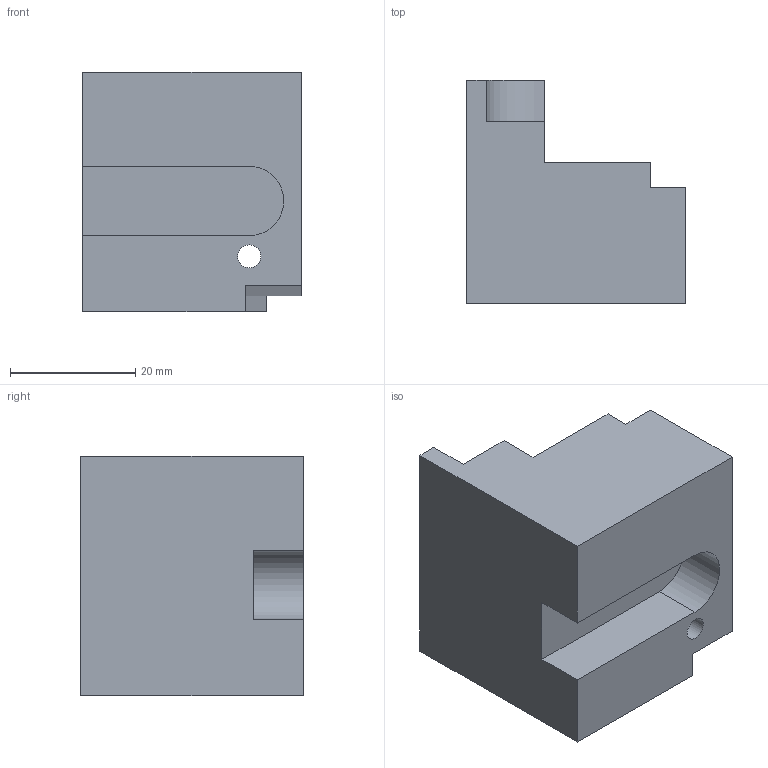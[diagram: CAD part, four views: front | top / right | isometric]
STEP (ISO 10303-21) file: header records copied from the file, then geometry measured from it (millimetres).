
FILE_DESCRIPTION(('Open CASCADE Model'),'2;1');
FILE_NAME('Open CASCADE Shape Model','2021-05-03T23:27:49',('Author'),( 'Open CASCADE'),'Open CASCADE STEP processor 7.4','Open CASCADE 7.4' ,'Unknown');
FILE_SCHEMA(('AUTOMOTIVE_DESIGN { 1 0 10303 214 1 1 1 1 }'));
Length unit declared in the file: millimetre
Products named in the file (1): Open CASCADE STEP translator 7.4 315
Bounding box: 34.99 x 35.62 x 38.31 mm (x, y, z)
Volume: 31014.3 mm3; surface area: 8112.8 mm2
Topology: 1 solids, 1 shells, 27 faces, 65 edges, 43 vertices
Faces by surface type: plane 21, cylinder 6
Full cylindrical faces by diameter (mm): 1.418 x1, 2 x2, 3.665 x1
Entity records: 1653 total; most frequent: CARTESIAN_POINT 300, DIRECTION 254, LINE 167, VECTOR 167, ORIENTED_EDGE 130, PCURVE 130, DEFINITIONAL_REPRESENTATION 130, EDGE_CURVE 65
